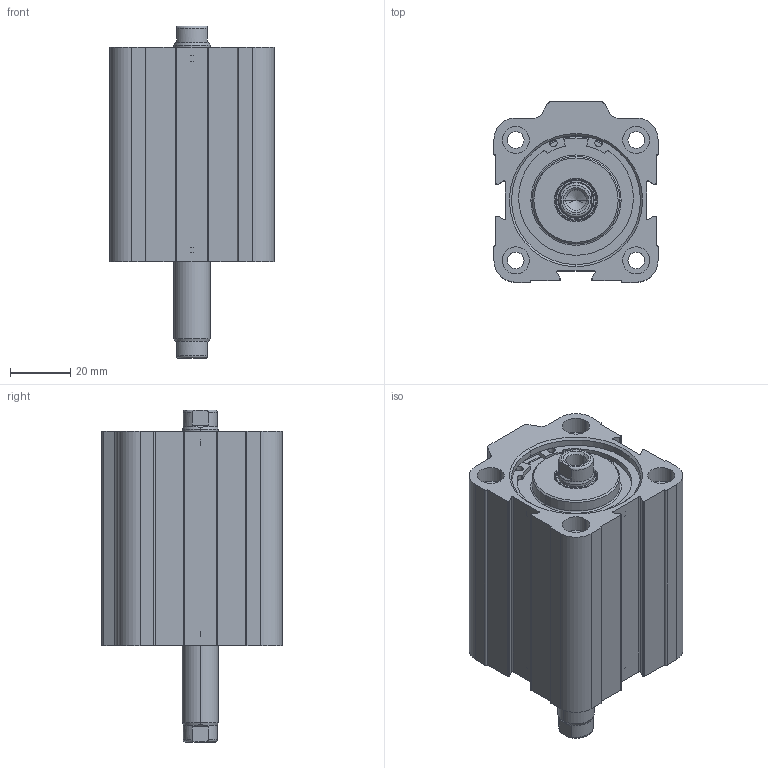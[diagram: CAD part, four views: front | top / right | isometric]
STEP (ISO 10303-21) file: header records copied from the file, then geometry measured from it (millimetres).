
FILE_DESCRIPTION (( 'STEP AP214' ), '1' );
FILE_NAME ('D11M40400025.STEP', '2021-11-02T17:01:52', ( '' ), ( '' ), 'SwSTEP 2.0', 'SolidWorks 2016', '' );
FILE_SCHEMA (( 'AUTOMOTIVE_DESIGN' ));
Length unit declared in the file: millimetre
Products named in the file (6): 000.504.7_22.040.025; 22.D03.000_22.D03.025; TA Ø40 Corsa Breve WEB; Pistone Ø40 corsa breve WEB; 22.E01.000_22.E01.025; D11M40400025
Assembly tree (6 placements, depth 2):
  D11M40400025
    000.504.7_22.040.025
    22.E01.000_22.E01.025
    Pistone Ø40 corsa breve WEB
    TA Ø40 Corsa Breve WEB  x2
    22.D03.000_22.D03.025
Bounding box: 54.5 x 60 x 110.2 mm (x, y, z)
Volume: 161894.1 mm3; surface area: 60399.9 mm2
Topology: 10 solids, 10 shells, 395 faces, 923 edges, 567 vertices
Faces by surface type: cylinder 161, cone 104, plane 98, torus 32
Entity records: 10673 total; most frequent: CARTESIAN_POINT 1760, DIRECTION 1735, ORIENTED_EDGE 1486, EDGE_CURVE 743, AXIS2_PLACEMENT_3D 696, VERTEX_POINT 465, CIRCLE 372, EDGE_LOOP 362
